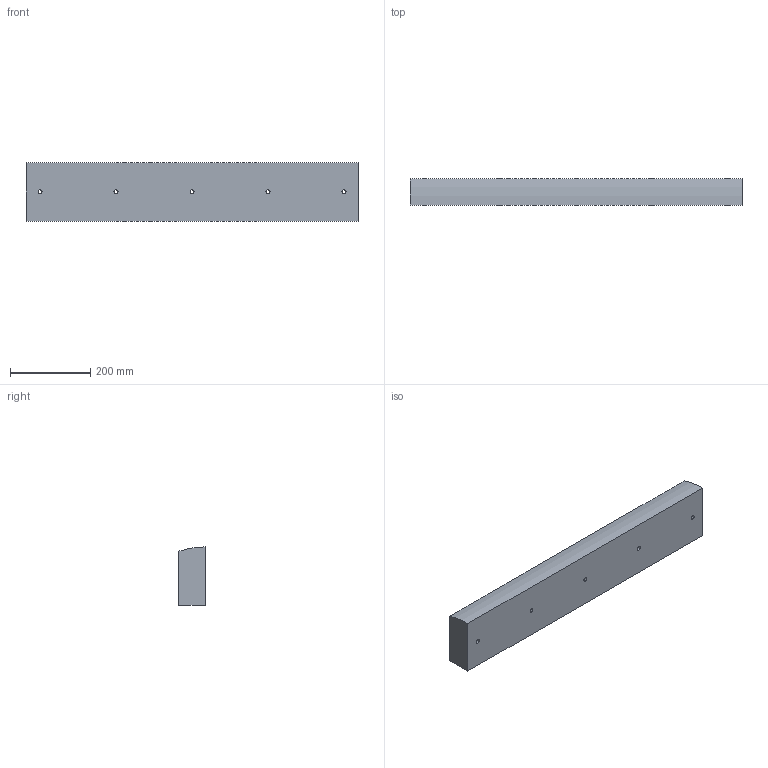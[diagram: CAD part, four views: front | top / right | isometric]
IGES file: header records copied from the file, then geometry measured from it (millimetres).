
Global section: file name: raio 4.igs; native system: NX V2312; preprocessor: SIEMENS PLM Software NX2312.5001; date: 20240809.190936; units: millimetre
Bounding box: 830 x 65.4 x 145.38 mm (x, y, z)
Surface area: 369966.6 mm2 (no closed solid volume)
Topology: 0 solids, 0 shells, 11 faces, 129 edges, 124 vertices
Faces by surface type: bspline 11
